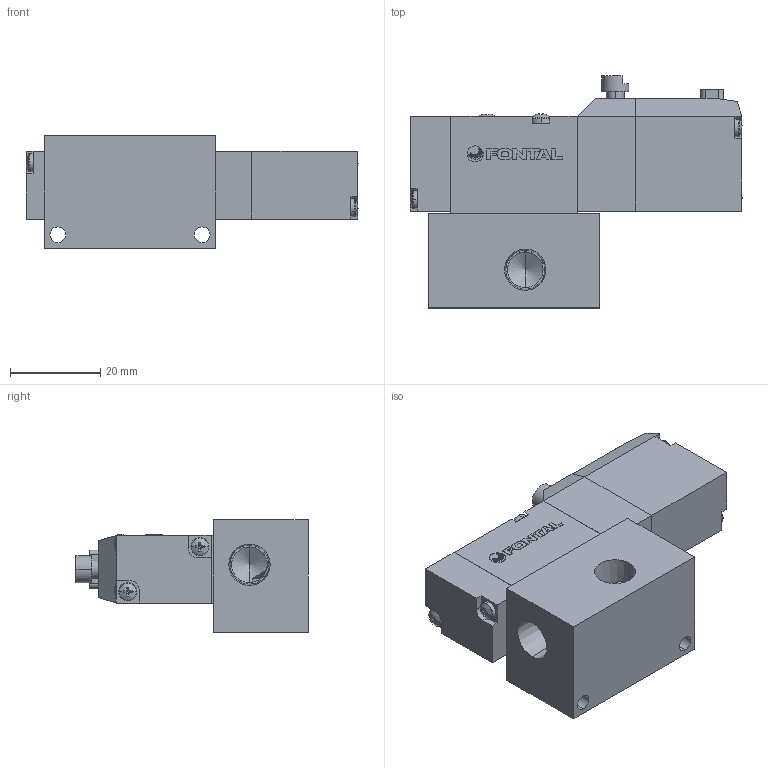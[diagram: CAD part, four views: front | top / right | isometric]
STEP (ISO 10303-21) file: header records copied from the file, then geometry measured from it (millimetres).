
FILE_DESCRIPTION (( 'STEP AP203' ), '1' );
FILE_NAME ('PCL245#-01-#-U-#.STEP', '2016-02-04T03:48:49', ( 'Sam Lin' ), ( '' ), 'SwSTEP 2.0', 'SolidWorks 2013', '' );
FILE_SCHEMA (( 'CONFIG_CONTROL_DESIGN' ));
Length unit declared in the file: metre
Products named in the file (10): ISO 7045 - M2 x 10; PC-MARK; PC5-4; ISO 7045 - M2.5 x 25; PC5-01-1; PC5-3-U; PC5-5-PCL･ﾎ; 手動鈕; PC5-2; PCL245#-01-#-U-#
Assembly tree (13 placements, depth 2):
  PCL245#-01-#-U-#
    PC5-2
    ISO 7045 - M2 x 10  x4
    PC-MARK
    PC5-4
    ISO 7045 - M2.5 x 25  x2
    PC5-01-1
    PC5-3-U
    PC5-5-PCL･ﾎ
    手動鈕
Bounding box: 73.64 x 51.5 x 25 mm (x, y, z)
Volume: 40823.5 mm3; surface area: 16805 mm2
Topology: 19 solids, 19 shells, 496 faces, 1221 edges, 758 vertices
Faces by surface type: plane 271, cylinder 97, cone 84, bspline 44
Entity records: 11220 total; most frequent: CARTESIAN_POINT 2333, ORIENTED_EDGE 1602, DIRECTION 1592, EDGE_CURVE 801, AXIS2_PLACEMENT_3D 561, VERTEX_POINT 518, VECTOR 470, LINE 470
